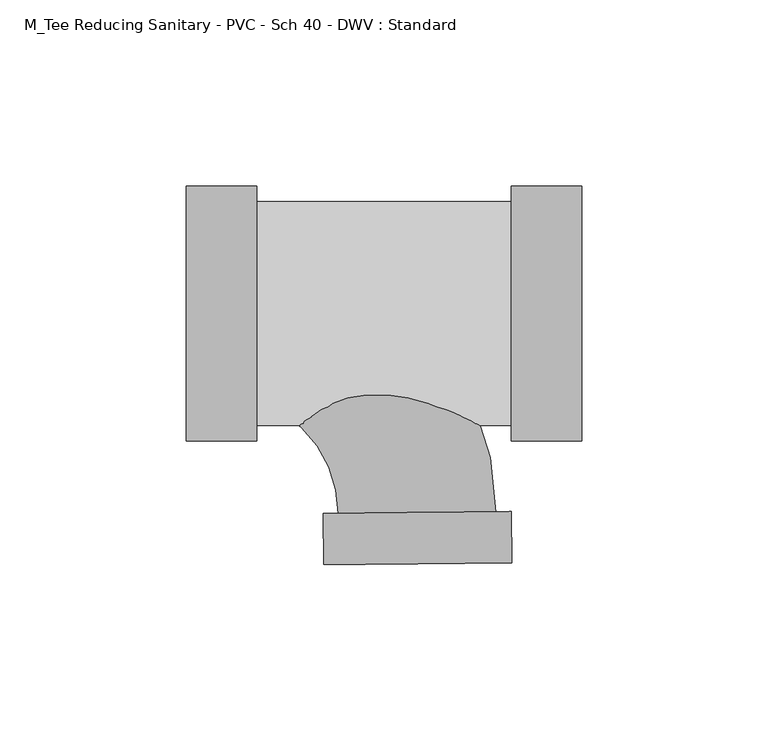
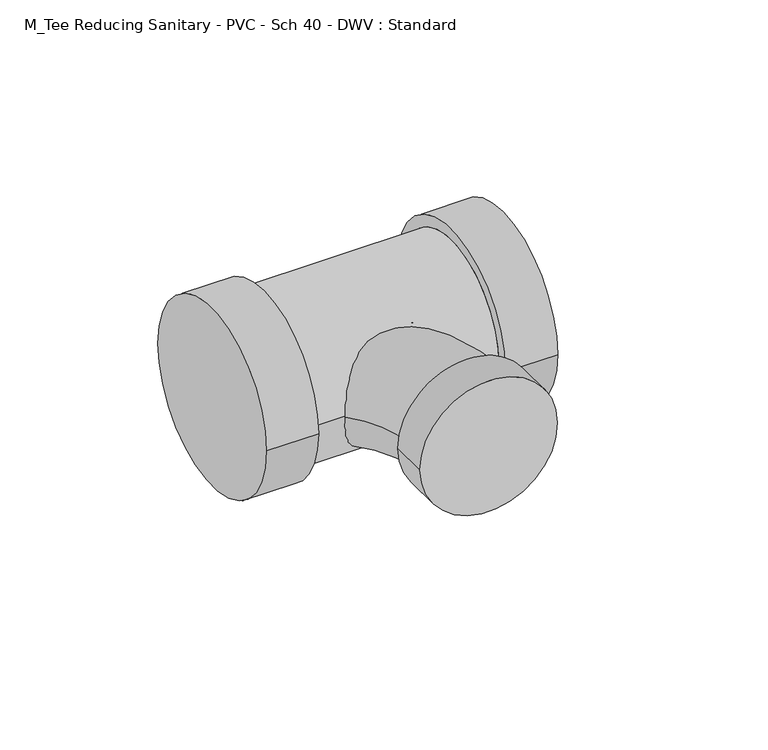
"""IFC4 building model written with IfcOpenShell, lengths in millimetres: pipe fitting geometry, M_Tee Reducing Sanitary - PVC - Sch 40 - DWV : Standard."""

from ifc_helpers import new_model, si_unit, point, frame, origin, place, context, project, spatial, circle_curve, ellipse_curve, trimmed, source, transform, mapped, element, save
from ifc_brep_helpers import plane_surface, cylinder_surface, revolved_surface, advanced_brep


def m_tee_reducing_sanitary_pvc_sch_40_dwv_standard_ca98856a(model_context):
    return source(origin(), model_context, "Body", "AdvancedBrep", [
        advanced_brep(
        [(25.8010449, -34.3154, 0.0), (25.8010449, 34.3154, 0.0), (25.8010449, -30.1625, 0.0), (25.8010449, 30.1625, 0.0), (44.8510449, -34.3154, 0.0), (44.8510449, 34.3154, 0.0), (-42.5069062, 30.1625, 0.0), (-42.5069062, -30.1625, 0.0), (-61.5569062, -34.3154, 0.0), (-61.5569062, 34.3154, 0.0), (-42.5069062, -34.3154, 0.0), (-42.5069062, 34.3154, 0.0)],
        [
            (0, 1, circle_curve(frame((25.8010449, 0.0, 0.0), z_axis=(-1.0, 0.0, 0.0), x_axis=(0.0, 1.0, 0.0)), 34.3154)),
            (1, 0, circle_curve(frame((25.8010449, 0.0, 0.0), z_axis=(-1.0, 0.0, 0.0), x_axis=(0.0, 1.0, 0.0)), 34.3154)),
            (2, 3, circle_curve(frame((25.8010449, 0.0, 0.0), z_axis=(1.0, 0.0, 0.0), x_axis=(0.0, 0.0, -1.0)), 30.1625)),
            (3, 2, circle_curve(frame((25.8010449, 0.0, 0.0), z_axis=(1.0, 0.0, 0.0), x_axis=(0.0, 0.0, 1.0)), 30.1625)),
            (4, 5, circle_curve(frame((44.8510449, 0.0, 0.0), z_axis=(1.0, 0.0, 0.0), x_axis=(0.0, 1.0, 0.0)), 34.3154)),
            (5, 4, circle_curve(frame((44.8510449, 0.0, 0.0), z_axis=(1.0, 0.0, 0.0), x_axis=(0.0, 1.0, 0.0)), 34.3154)),
            (0, 4),
            (5, 1),
            (6, 3),
            (2, 7),
            (7, 6, circle_curve(frame((-42.5069062, 0.0, 0.0), z_axis=(1.0, 0.0, 0.0), x_axis=(0.0, 0.0, -1.0)), 30.1625)),
            (6, 7, circle_curve(frame((-42.5069062, 0.0, 0.0), z_axis=(1.0, 0.0, 0.0), x_axis=(0.0, 0.0, 1.0)), 30.1625)),
            (8, 9, circle_curve(frame((-61.5569062, 0.0, 0.0), z_axis=(-1.0, 0.0, 0.0), x_axis=(0.0, 1.0, 0.0)), 34.3154)),
            (9, 8, circle_curve(frame((-61.5569062, 0.0, 0.0), z_axis=(-1.0, 0.0, 0.0), x_axis=(0.0, 1.0, 0.0)), 34.3154)),
            (10, 11, circle_curve(frame((-42.5069062, 0.0, 0.0), z_axis=(1.0, 0.0, 0.0), x_axis=(0.0, 1.0, 0.0)), 34.3154)),
            (11, 10, circle_curve(frame((-42.5069062, 0.0, 0.0), z_axis=(1.0, 0.0, 0.0), x_axis=(0.0, 1.0, 0.0)), 34.3154)),
            (8, 10),
            (11, 9),
        ],
        [
            plane_surface(frame((25.8010449, 0.0, 0.0), z_axis=(-1.0, 0.0, 0.0), x_axis=(0.0, 0.0, 1.0))),
            plane_surface(frame((44.8510449, 0.0, 0.0), z_axis=(1.0, 0.0, 0.0), x_axis=(0.0, 0.0, 1.0))),
            cylinder_surface(frame((25.8010449, 0.0, 0.0), z_axis=(-1.0, 0.0, 0.0), x_axis=(0.0, 1.0, 0.0)), 34.3154),
            cylinder_surface(frame((-42.5069062, 0.0, 0.0), z_axis=(1.0, 0.0, 0.0), x_axis=(0.0, 0.0, -1.0)), 30.1625),
            cylinder_surface(frame((-42.5069062, 0.0, 0.0), z_axis=(1.0, 0.0, 0.0), x_axis=(0.0, 0.0, 1.0)), 30.1625),
            plane_surface(frame((-61.5569062, 0.0, 0.0), z_axis=(-1.0, 0.0, 0.0), x_axis=(0.0, 0.0, 1.0))),
            plane_surface(frame((-42.5069062, 0.0, 0.0), z_axis=(1.0, 0.0, 0.0), x_axis=(0.0, 0.0, 1.0))),
            cylinder_surface(frame((-61.5569062, 0.0, 0.0), z_axis=(-1.0, 0.0, 0.0), x_axis=(0.0, 1.0, 0.0)), 34.3154),
        ],
        [
            (0, [[1, 2], [3, 4]]),
            (1, [[5, 6]]),
            (2, [[-1, 7, -6, 8]]),
            (2, [[-2, -8, -5, -7]]),
            (3, [[9, -3, 10, 11]]),
            (4, [[-9, 12, -10, -4]]),
            (5, [[13, 14]]),
            (6, [[15, 16], [-11, -12]]),
            (7, [[-13, 17, -16, 18]]),
            (7, [[-14, -18, -15, -17]]),
        ],
    ),
        advanced_brep(
        [(-24.7306478, -53.7776149, 0.0), (25.8010449, -53.2723463, 0.0), (21.7382011, -53.3129709, 0.0), (-20.667804, -53.7369903, 0.0), (-24.5932647, -67.5172405, 0.0), (25.938428, -67.011972, 0.0), (-53.5276562, -21.2040625, 0.0), (-53.5276562, 21.2040625, 0.0)],
        [
            (0, 1, circle_curve(frame((0.5351986, -53.5249806, 0.0), z_axis=(-0.009998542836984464, 0.9999500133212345, 0.0), x_axis=(0.9999500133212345, 0.009998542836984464, 0.0)), 25.2671094)),
            (1, 0, circle_curve(frame((0.5351986, -53.5249806, 0.0), z_axis=(-0.009998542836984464, 0.9999500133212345, 0.0), x_axis=(0.9999500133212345, 0.009998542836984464, 0.0)), 25.2671094)),
            (2, 3, circle_curve(frame((0.5351986, -53.5249806, 0.0), z_axis=(0.00999854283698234, -0.9999500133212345, 0.0), x_axis=(0.9999500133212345, 0.00999854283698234, 0.0)), 21.2040625)),
            (3, 2, circle_curve(frame((0.5351986, -53.5249806, 0.0), z_axis=(0.00999854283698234, -0.9999500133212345, 0.0), x_axis=(0.9999500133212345, 0.00999854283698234, 0.0)), 21.2040625)),
            (4, 5, circle_curve(frame((0.6725817, -67.2646062, 0.0), z_axis=(0.009998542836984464, -0.9999500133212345, 0.0), x_axis=(0.9999500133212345, 0.009998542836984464, 0.0)), 25.2671094)),
            (5, 4, circle_curve(frame((0.6725817, -67.2646062, 0.0), z_axis=(0.009998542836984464, -0.9999500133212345, 0.0), x_axis=(0.9999500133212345, 0.009998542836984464, 0.0)), 25.2671094)),
            (0, 4),
            (5, 1),
            (6, 7, circle_curve(frame((-53.5276562, 0.0, 0.0), z_axis=(-1.0, 0.0, 0.0), x_axis=(0.0, 1.0, 0.0)), 21.2040625)),
            (7, 6, circle_curve(frame((-53.5276562, 0.0, 0.0), z_axis=(-1.0, 0.0, 0.0), x_axis=(0.0, 1.0, 0.0)), 21.2040625)),
            (6, 3, circle_curve(frame((-53.5276562, -54.0655574, 0.0), z_axis=(0.0, 0.0, -1.0), x_axis=(0.0, 1.0, 0.0)), 32.8614949)),
            (2, 7, circle_curve(frame((-53.5276562, -54.0655574, 0.0), z_axis=(0.0, 0.0, 1.0), x_axis=(0.0, 1.0, 0.0)), 75.2696199)),
        ],
        [
            plane_surface(frame((0.5351986, -53.5249806, 0.0), z_axis=(-0.009998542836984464, 0.9999500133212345, 0.0), x_axis=(0.0, 0.0, 1.0))),
            plane_surface(frame((0.6725817, -67.2646062, 0.0), z_axis=(0.009998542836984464, -0.9999500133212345, 0.0), x_axis=(0.0, 0.0, 1.0))),
            cylinder_surface(frame((0.5351986, -53.5249806, 0.0), z_axis=(-0.009998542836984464, 0.9999500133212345, 0.0), x_axis=(0.9999500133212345, 0.009998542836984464, 0.0)), 25.2671094),
            plane_surface(frame((-53.5276562, 0.0, 0.0), z_axis=(-1.0, 0.0, 0.0), x_axis=(0.0, 0.0, 1.0))),
            revolved_surface(trimmed(ellipse_curve(frame((-53.5276562, 0.0, 0.0), z_axis=(-1.0, 0.0, 0.0), x_axis=(0.0, 1.0, 0.0)), 21.2040625, 21.2040625), [point((-53.5276562, -21.2040625, 0.0))], [point((-53.5276562, 21.2040625, 0.0))], True, "CARTESIAN"), (-53.5276562, -54.0655574, 0.0), (0.0, 0.0, -1.0)),
            revolved_surface(trimmed(ellipse_curve(frame((-53.5276562, 0.0, 0.0), z_axis=(-1.0, 0.0, 0.0), x_axis=(0.0, 1.0, 0.0)), 21.2040625, 21.2040625), [point((-53.5276562, 21.2040625, 0.0))], [point((-53.5276562, -21.2040625, 0.0))], True, "CARTESIAN"), (-53.5276562, -54.0655574, 0.0), (0.0, 0.0, -1.0)),
        ],
        [
            (0, [[1, 2], [3, 4]]),
            (1, [[5, 6]]),
            (2, [[-1, 7, -6, 8]]),
            (2, [[-2, -8, -5, -7]]),
            (3, [[9, 10]]),
            (4, [[-9, 11, -3, 12]]),
            (5, [[-10, -12, -4, -11]]),
        ],
    ),
    ])


if __name__ == "__main__":
    model = new_model("IFC4")
    model_context = context("Model", 3, world=origin())
    ifc_project = project(units=[si_unit("LENGTHUNIT", "METRE", prefix="MILLI")], contexts=[model_context])
    site = spatial("IfcSite", under=ifc_project)
    building = spatial("IfcBuilding", under=site)
    placement = place(None, origin())
    m_tee_reducing_sanitary_pvc_sch_40_dwv_standard_shape = m_tee_reducing_sanitary_pvc_sch_40_dwv_standard_ca98856a(model_context)
    element("IfcPipeFitting", 1, ObjectType="M_Tee Reducing Sanitary - PVC - Sch 40 - DWV : Standard", at=placement, inside=building, context=model_context, shape_type="MappedRepresentation", body=[
        mapped(m_tee_reducing_sanitary_pvc_sch_40_dwv_standard_shape, transform((0.0, 0.0, 0.0), x_axis=(1.0, 0.0, 0.0), y_axis=(0.0, 1.0, 0.0), z_axis=(0.0, 0.0, 1.0))),
    ])
    save(model, "model.ifc")
